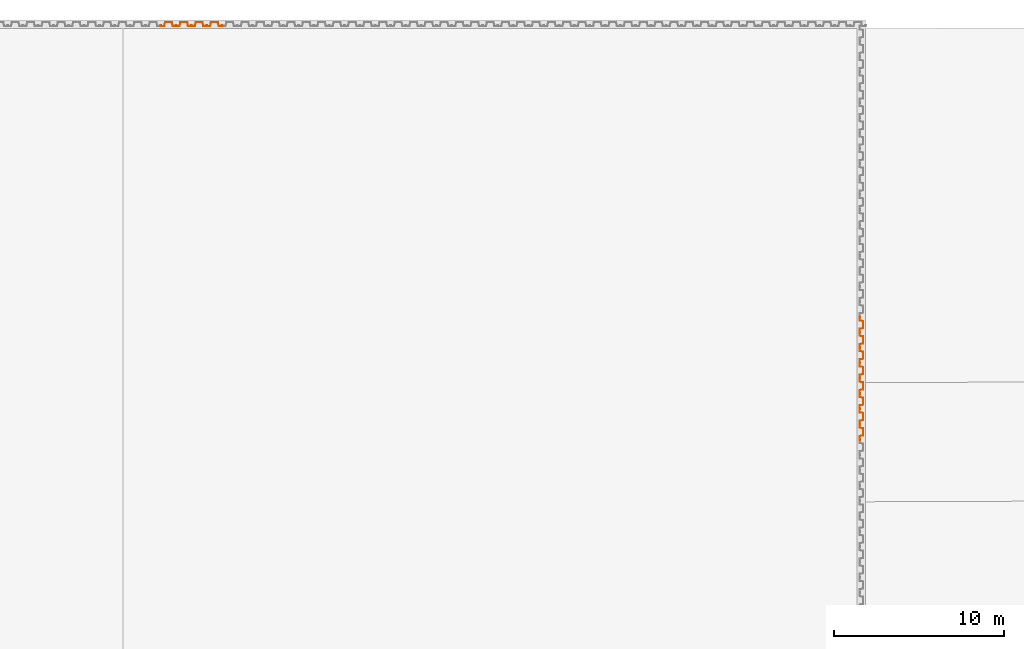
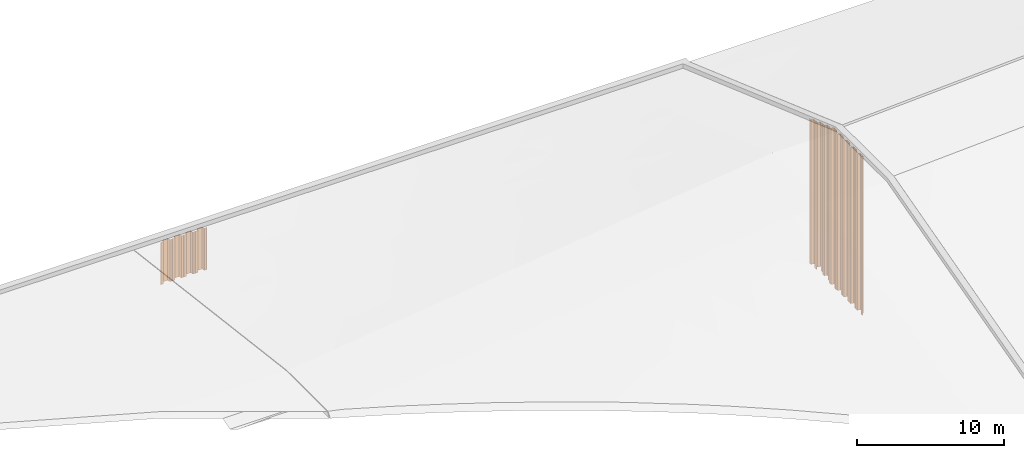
# One storey, part 27 of 32: 12 proxies.
"""IFC2X3 building model written with IfcOpenShell, lengths in millimetres."""

from ifc_helpers import new_model, entity, si_unit, converted_unit, derived_unit, direction, frame, frame_2d, origin, place, context, subcontext, project, spatial, polyline, circle_curve, parameter, trimmed, segment, composite_curve, outline, extrude, source, transform, mapped, type_object, type_shapes, element, save


model = new_model("IFC2X3")

# Units and contexts
model_context = context("Model", 3, precision=0.01, world=origin(), true_north=direction((6.12303176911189e-17, 1.0)))
body_context = subcontext(model_context, "Body", "Model", "MODEL_VIEW")
ifc_project = project(units=[si_unit("LENGTHUNIT", "METRE", prefix="MILLI"), si_unit("AREAUNIT", "SQUARE_METRE"), si_unit("VOLUMEUNIT", "CUBIC_METRE"), converted_unit("PLANEANGLEUNIT", "DEGREE", entity("IfcRatioMeasure", 0.0174532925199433), si_unit("PLANEANGLEUNIT", "RADIAN"), dimensions=[0, 0, 0, 0, 0, 0, 0]), si_unit("MASSUNIT", "GRAM", prefix="KILO"), derived_unit("MASSDENSITYUNIT", [(si_unit("MASSUNIT", "GRAM", prefix="KILO"), 1), (si_unit("LENGTHUNIT", "METRE"), -3)]), si_unit("TIMEUNIT", "SECOND"), si_unit("FREQUENCYUNIT", "HERTZ"), si_unit("THERMODYNAMICTEMPERATUREUNIT", "DEGREE_CELSIUS"), derived_unit("THERMALTRANSMITTANCEUNIT", [(si_unit("MASSUNIT", "GRAM", prefix="KILO"), 1), (si_unit("THERMODYNAMICTEMPERATUREUNIT", "KELVIN"), -1), (si_unit("TIMEUNIT", "SECOND"), -3)]), derived_unit("VOLUMETRICFLOWRATEUNIT", [(si_unit("LENGTHUNIT", "METRE"), 3), (si_unit("TIMEUNIT", "SECOND"), -1)]), si_unit("ELECTRICCURRENTUNIT", "AMPERE"), si_unit("ELECTRICVOLTAGEUNIT", "VOLT"), si_unit("POWERUNIT", "WATT"), si_unit("FORCEUNIT", "NEWTON", prefix="KILO"), si_unit("ILLUMINANCEUNIT", "LUX"), si_unit("LUMINOUSFLUXUNIT", "LUMEN"), si_unit("LUMINOUSINTENSITYUNIT", "CANDELA"), derived_unit("USERDEFINED", [(si_unit("MASSUNIT", "GRAM", prefix="KILO"), -1), (si_unit("LENGTHUNIT", "METRE"), -2), (si_unit("TIMEUNIT", "SECOND"), 3), (si_unit("LUMINOUSFLUXUNIT", "LUMEN"), 1)]), derived_unit("LINEARVELOCITYUNIT", [(si_unit("LENGTHUNIT", "METRE"), 1), (si_unit("TIMEUNIT", "SECOND"), -1)]), si_unit("PRESSUREUNIT", "PASCAL"), derived_unit("USERDEFINED", [(si_unit("LENGTHUNIT", "METRE"), -2), (si_unit("MASSUNIT", "GRAM", prefix="KILO"), 1), (si_unit("TIMEUNIT", "SECOND"), -2)])], contexts=[model_context])

# Site, building, storey
site_placement = place(None, origin())
site = spatial("IfcSite", under=ifc_project, at=site_placement, Name="Default", CompositionType="ELEMENT")
building_placement = place(site_placement, origin())
building = spatial("IfcBuilding", under=site, at=building_placement, CompositionType="ELEMENT")
storey_placement = place(building_placement, origin())
storey = spatial("IfcBuildingStorey", under=building, at=storey_placement, Name="矢板", CompositionType="ELEMENT", Elevation=0.0)

# Proxies
building_element_proxy_type_1 = type_object("IfcBuildingElementProxyType", Name="鋼矢板10H型", PredefinedType="NOTDEFINED")
shared_shape_1 = source(origin(), body_context, "Body", "SweptSolid", [
    extrude(outline(composite_curve([segment(trimmed(circle_curve(frame_2d((85.3662976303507, 306.644432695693), x_axis=(0.422618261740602, 0.906307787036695)), 13.885714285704), [parameter(24.9999999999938)], [parameter(90.0000000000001)], True, "PARAMETER"), True, "CONTINUOUS"), segment(polyline([(72.7815666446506, 312.512789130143), (9.8129512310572, 177.476157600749)]), True, "CONTINUOUS"), segment(trimmed(circle_curve(frame_2d((29.3891994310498, 168.347603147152), x_axis=(0.422618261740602, 0.906307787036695)), 21.6), [parameter(90.0000000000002)], [parameter(168.69006752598)], True, "PARAMETER"), True, "CONTINUOUS"), segment(polyline([(16.598697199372, 150.941769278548), (175.329723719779, 34.2998683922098)]), True, "CONTINUOUS"), segment(trimmed(circle_curve(frame_2d((168.93447260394, 25.596951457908), x_axis=(0.422618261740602, 0.906307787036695)), 10.7999999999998), [parameter(270.0)], [parameter(348.690067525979)], True, "PARAMETER"), False, "CONTINUOUS"), segment(polyline([(178.722596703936, 21.0326742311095), (18.2974003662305, -323.000269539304)]), True, "CONTINUOUS"), segment(trimmed(circle_curve(frame_2d((8.50927626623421, -318.435992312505), x_axis=(0.422618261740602, 0.906307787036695)), 10.8), [parameter(191.30993247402)], [parameter(269.999999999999)], True, "PARAMETER"), False, "CONTINUOUS"), segment(polyline([(5.95324328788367, -328.929166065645), (-185.429973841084, -282.310113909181)]), True, "CONTINUOUS"), segment(trimmed(circle_curve(frame_2d((-190.542039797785, -303.296461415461), x_axis=(0.422618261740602, 0.906307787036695)), 21.6000000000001), [parameter(11.3099324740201)], [parameter(90.0000000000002)], True, "PARAMETER"), True, "CONTINUOUS"), segment(polyline([(-210.118287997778, -294.167906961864), (-290.330886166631, -466.184378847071)]), True, "CONTINUOUS"), segment(trimmed(circle_curve(frame_2d((-270.754637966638, -475.312933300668), x_axis=(0.422618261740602, 0.906307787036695)), 21.6), [parameter(90.0000000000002)], [parameter(269.999999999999)], True, "PARAMETER"), True, "CONTINUOUS"), segment(polyline([(-251.178389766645, -484.441487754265), (-249.065298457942, -479.909948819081)]), True, "CONTINUOUS"), segment(polyline([(-249.065298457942, -479.909948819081), (-258.853422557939, -475.345671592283)]), True, "CONTINUOUS"), segment(polyline([(-258.853422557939, -475.345671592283), (-260.966513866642, -479.877210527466)]), True, "CONTINUOUS"), segment(trimmed(circle_curve(frame_2d((-270.754637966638, -475.312933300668), x_axis=(0.422618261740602, 0.906307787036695)), 10.8), [parameter(90.0000000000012)], [parameter(270.0)], True, "PARAMETER"), False, "CONTINUOUS"), segment(polyline([(-280.542762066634, -470.748656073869), (-200.330163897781, -298.732184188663)]), True, "CONTINUOUS"), segment(trimmed(circle_curve(frame_2d((-190.542039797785, -303.296461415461), x_axis=(0.422618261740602, 0.906307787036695)), 10.8), [parameter(11.3099324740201)], [parameter(89.9999999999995)], True, "PARAMETER"), False, "CONTINUOUS"), segment(polyline([(-187.986006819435, -292.803287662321), (3.39721030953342, -339.422339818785)]), True, "CONTINUOUS"), segment(trimmed(circle_curve(frame_2d((8.50927626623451, -318.435992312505), x_axis=(0.422618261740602, 0.906307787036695)), 21.6), [parameter(191.30993247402)], [parameter(270.0)], True, "PARAMETER"), True, "CONTINUOUS"), segment(polyline([(28.0855244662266, -327.564546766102), (188.510720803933, 16.4683970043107)]), True, "CONTINUOUS"), segment(trimmed(circle_curve(frame_2d((168.93447260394, 25.5969514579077), x_axis=(0.422618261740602, 0.906307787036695)), 21.6), [parameter(270.0)], [parameter(348.69006752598)], True, "PARAMETER"), True, "CONTINUOUS"), segment(polyline([(181.724974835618, 43.0027853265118), (22.9939483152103, 159.644686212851)]), True, "CONTINUOUS"), segment(trimmed(circle_curve(frame_2d((29.3891994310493, 168.347603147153), x_axis=(0.422618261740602, 0.906307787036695)), 10.7999999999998), [parameter(89.9999999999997)], [parameter(168.690067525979)], True, "PARAMETER"), False, "CONTINUOUS"), segment(polyline([(19.6010753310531, 172.911880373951), (82.5696907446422, 307.948511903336)]), True, "CONTINUOUS"), segment(trimmed(circle_curve(frame_2d((85.3662976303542, 306.64443269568), x_axis=(0.422618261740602, 0.906307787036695)), 3.08571428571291), [parameter(25.0000000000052)], [parameter(90.0000000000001)], True, "PARAMETER"), False, "CONTINUOUS"), segment(polyline([(85.3662976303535, 309.730146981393), (122.220231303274, 309.730146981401)]), True, "CONTINUOUS"), segment(trimmed(circle_curve(frame_2d((122.220231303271, 323.615861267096), x_axis=(0.422618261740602, 0.906307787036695)), 13.8857142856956), [parameter(205.000000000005)], [parameter(270.0)], True, "PARAMETER"), True, "CONTINUOUS"), segment(polyline([(134.804962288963, 317.747504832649), (141.079261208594, 331.202782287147)]), True, "CONTINUOUS"), segment(trimmed(circle_curve(frame_2d((121.503013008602, 340.331336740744), x_axis=(0.422618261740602, 0.906307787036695)), 21.6), [parameter(270.0)], [parameter(90.0000000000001)], True, "PARAMETER"), True, "CONTINUOUS"), segment(polyline([(101.926764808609, 349.459891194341), (99.8136734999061, 344.928352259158)]), True, "CONTINUOUS"), segment(polyline([(99.8136734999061, 344.928352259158), (109.601797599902, 340.364075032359)]), True, "CONTINUOUS"), segment(polyline([(109.601797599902, 340.364075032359), (111.714888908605, 344.895613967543)]), True, "CONTINUOUS"), segment(trimmed(circle_curve(frame_2d((121.503013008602, 340.331336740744), x_axis=(0.422618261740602, 0.906307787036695)), 10.8), [parameter(270.0)], [parameter(89.9999999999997)], True, "PARAMETER"), False, "CONTINUOUS"), segment(polyline([(131.291137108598, 335.767059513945), (125.01683818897, 322.311782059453)]), True, "CONTINUOUS"), segment(trimmed(circle_curve(frame_2d((122.220231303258, 323.615861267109), x_axis=(0.422618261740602, 0.906307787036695)), 3.08571428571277), [parameter(204.999999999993)], [parameter(270.0)], True, "PARAMETER"), False, "CONTINUOUS"), segment(polyline([(122.220231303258, 320.530146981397), (85.3662976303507, 320.530146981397)]), True, "CONTINUOUS")], self_intersect=False)), frame((95.205667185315, -48.8888888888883, -3500.0), z_axis=(0.0, 0.0, -1.0), x_axis=(0.4226182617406, 0.906307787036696, 0.0)), (0.0, 0.0, -1.0), 3500.0),
])
type_shapes(building_element_proxy_type_1, [shared_shape_1])
for number, where in (
    (1, (110497.5, 28702.0, 7600.0)),
    (2, (109597.5, 28702.0, 7600.0)),
    (3, (108697.5, 28702.0, 7600.0)),
    (4, (107797.5, 28702.0, 7600.0)),
):
    element("IfcBuildingElementProxy", number, at=place(storey_placement, frame(where)), inside=storey, type_object=building_element_proxy_type_1, Name="鋼矢板10H型:鋼矢板10H型", ObjectType="鋼矢板10H型:鋼矢板10H型", context=body_context, shape_type="MappedRepresentation", body=[
        mapped(shared_shape_1, transform((0.0, 0.0, 0.0), scale=1.0)),
    ])
building_element_proxy_type_2 = type_object("IfcBuildingElementProxyType", Name="鋼矢板10H型", PredefinedType="NOTDEFINED")
shared_shape_2 = source(origin(), body_context, "Body", "SweptSolid", [
    extrude(outline(composite_curve([segment(trimmed(circle_curve(frame_2d((85.3662976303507, 306.644432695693), x_axis=(0.422618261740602, 0.906307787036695)), 13.885714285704), [parameter(24.9999999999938)], [parameter(90.0000000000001)], True, "PARAMETER"), True, "CONTINUOUS"), segment(polyline([(72.7815666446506, 312.512789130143), (9.8129512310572, 177.476157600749)]), True, "CONTINUOUS"), segment(trimmed(circle_curve(frame_2d((29.3891994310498, 168.347603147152), x_axis=(0.422618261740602, 0.906307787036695)), 21.6), [parameter(90.0000000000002)], [parameter(168.69006752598)], True, "PARAMETER"), True, "CONTINUOUS"), segment(polyline([(16.598697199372, 150.941769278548), (175.329723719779, 34.2998683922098)]), True, "CONTINUOUS"), segment(trimmed(circle_curve(frame_2d((168.93447260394, 25.596951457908), x_axis=(0.422618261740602, 0.906307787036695)), 10.7999999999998), [parameter(270.0)], [parameter(348.690067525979)], True, "PARAMETER"), False, "CONTINUOUS"), segment(polyline([(178.722596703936, 21.0326742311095), (18.2974003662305, -323.000269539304)]), True, "CONTINUOUS"), segment(trimmed(circle_curve(frame_2d((8.50927626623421, -318.435992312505), x_axis=(0.422618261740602, 0.906307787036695)), 10.8), [parameter(191.30993247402)], [parameter(269.999999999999)], True, "PARAMETER"), False, "CONTINUOUS"), segment(polyline([(5.95324328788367, -328.929166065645), (-185.429973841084, -282.310113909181)]), True, "CONTINUOUS"), segment(trimmed(circle_curve(frame_2d((-190.542039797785, -303.296461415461), x_axis=(0.422618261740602, 0.906307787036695)), 21.6000000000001), [parameter(11.3099324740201)], [parameter(90.0000000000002)], True, "PARAMETER"), True, "CONTINUOUS"), segment(polyline([(-210.118287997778, -294.167906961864), (-290.330886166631, -466.184378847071)]), True, "CONTINUOUS"), segment(trimmed(circle_curve(frame_2d((-270.754637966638, -475.312933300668), x_axis=(0.422618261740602, 0.906307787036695)), 21.6), [parameter(90.0000000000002)], [parameter(269.999999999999)], True, "PARAMETER"), True, "CONTINUOUS"), segment(polyline([(-251.178389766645, -484.441487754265), (-249.065298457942, -479.909948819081)]), True, "CONTINUOUS"), segment(polyline([(-249.065298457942, -479.909948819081), (-258.853422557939, -475.345671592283)]), True, "CONTINUOUS"), segment(polyline([(-258.853422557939, -475.345671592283), (-260.966513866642, -479.877210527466)]), True, "CONTINUOUS"), segment(trimmed(circle_curve(frame_2d((-270.754637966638, -475.312933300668), x_axis=(0.422618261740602, 0.906307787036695)), 10.8), [parameter(90.0000000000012)], [parameter(270.0)], True, "PARAMETER"), False, "CONTINUOUS"), segment(polyline([(-280.542762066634, -470.748656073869), (-200.330163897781, -298.732184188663)]), True, "CONTINUOUS"), segment(trimmed(circle_curve(frame_2d((-190.542039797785, -303.296461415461), x_axis=(0.422618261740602, 0.906307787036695)), 10.8), [parameter(11.3099324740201)], [parameter(89.9999999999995)], True, "PARAMETER"), False, "CONTINUOUS"), segment(polyline([(-187.986006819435, -292.803287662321), (3.39721030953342, -339.422339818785)]), True, "CONTINUOUS"), segment(trimmed(circle_curve(frame_2d((8.50927626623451, -318.435992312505), x_axis=(0.422618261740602, 0.906307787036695)), 21.6), [parameter(191.30993247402)], [parameter(270.0)], True, "PARAMETER"), True, "CONTINUOUS"), segment(polyline([(28.0855244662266, -327.564546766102), (188.510720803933, 16.4683970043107)]), True, "CONTINUOUS"), segment(trimmed(circle_curve(frame_2d((168.93447260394, 25.5969514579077), x_axis=(0.422618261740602, 0.906307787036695)), 21.6), [parameter(270.0)], [parameter(348.69006752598)], True, "PARAMETER"), True, "CONTINUOUS"), segment(polyline([(181.724974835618, 43.0027853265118), (22.9939483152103, 159.644686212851)]), True, "CONTINUOUS"), segment(trimmed(circle_curve(frame_2d((29.3891994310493, 168.347603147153), x_axis=(0.422618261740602, 0.906307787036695)), 10.7999999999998), [parameter(89.9999999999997)], [parameter(168.690067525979)], True, "PARAMETER"), False, "CONTINUOUS"), segment(polyline([(19.6010753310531, 172.911880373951), (82.5696907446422, 307.948511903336)]), True, "CONTINUOUS"), segment(trimmed(circle_curve(frame_2d((85.3662976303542, 306.64443269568), x_axis=(0.422618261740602, 0.906307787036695)), 3.08571428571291), [parameter(25.0000000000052)], [parameter(90.0000000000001)], True, "PARAMETER"), False, "CONTINUOUS"), segment(polyline([(85.3662976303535, 309.730146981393), (122.220231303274, 309.730146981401)]), True, "CONTINUOUS"), segment(trimmed(circle_curve(frame_2d((122.220231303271, 323.615861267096), x_axis=(0.422618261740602, 0.906307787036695)), 13.8857142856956), [parameter(205.000000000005)], [parameter(270.0)], True, "PARAMETER"), True, "CONTINUOUS"), segment(polyline([(134.804962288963, 317.747504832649), (141.079261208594, 331.202782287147)]), True, "CONTINUOUS"), segment(trimmed(circle_curve(frame_2d((121.503013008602, 340.331336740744), x_axis=(0.422618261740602, 0.906307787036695)), 21.6), [parameter(270.0)], [parameter(90.0000000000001)], True, "PARAMETER"), True, "CONTINUOUS"), segment(polyline([(101.926764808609, 349.459891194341), (99.8136734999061, 344.928352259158)]), True, "CONTINUOUS"), segment(polyline([(99.8136734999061, 344.928352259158), (109.601797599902, 340.364075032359)]), True, "CONTINUOUS"), segment(polyline([(109.601797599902, 340.364075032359), (111.714888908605, 344.895613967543)]), True, "CONTINUOUS"), segment(trimmed(circle_curve(frame_2d((121.503013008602, 340.331336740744), x_axis=(0.422618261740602, 0.906307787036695)), 10.8), [parameter(270.0)], [parameter(89.9999999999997)], True, "PARAMETER"), False, "CONTINUOUS"), segment(polyline([(131.291137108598, 335.767059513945), (125.01683818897, 322.311782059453)]), True, "CONTINUOUS"), segment(trimmed(circle_curve(frame_2d((122.220231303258, 323.615861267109), x_axis=(0.422618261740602, 0.906307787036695)), 3.08571428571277), [parameter(204.999999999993)], [parameter(270.0)], True, "PARAMETER"), False, "CONTINUOUS"), segment(polyline([(122.220231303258, 320.530146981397), (85.3662976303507, 320.530146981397)]), True, "CONTINUOUS")], self_intersect=False)), frame((95.205667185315, -48.8888888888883, -12000.0), z_axis=(0.0, 0.0, -1.0), x_axis=(0.4226182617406, 0.906307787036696, 0.0)), (0.0, 0.0, -1.0), 12000.0),
])
type_shapes(building_element_proxy_type_2, [shared_shape_2])
for number, where, z_axis, x_axis in (
    (5, (148500.0, 11051.0, 13904.0), (0.0, 0.0, 1.0), (0.0, -1.0, 0.0)),
    (6, (148500.0, 10151.0, 14223.0), (0.0, 0.0, 1.0), (0.0, -1.0, 0.0)),
):
    element("IfcBuildingElementProxy", number, at=place(storey_placement, frame(where, z_axis=z_axis, x_axis=x_axis)), inside=storey, type_object=building_element_proxy_type_2, Name="鋼矢板10H型:鋼矢板10H型", ObjectType="鋼矢板10H型:鋼矢板10H型", context=body_context, shape_type="MappedRepresentation", body=[
        mapped(shared_shape_2, transform((0.0, 0.0, 0.0), scale=1.0)),
    ])
building_element_proxy_type_3 = type_object("IfcBuildingElementProxyType", Name="鋼矢板10H型", PredefinedType="NOTDEFINED")
shared_shape_3 = source(origin(), body_context, "Body", "SweptSolid", [
    extrude(outline(composite_curve([segment(trimmed(circle_curve(frame_2d((85.3662976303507, 306.644432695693), x_axis=(0.422618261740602, 0.906307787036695)), 13.885714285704), [parameter(24.9999999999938)], [parameter(90.0000000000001)], True, "PARAMETER"), True, "CONTINUOUS"), segment(polyline([(72.7815666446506, 312.512789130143), (9.8129512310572, 177.476157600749)]), True, "CONTINUOUS"), segment(trimmed(circle_curve(frame_2d((29.3891994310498, 168.347603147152), x_axis=(0.422618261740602, 0.906307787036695)), 21.6), [parameter(90.0000000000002)], [parameter(168.69006752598)], True, "PARAMETER"), True, "CONTINUOUS"), segment(polyline([(16.598697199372, 150.941769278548), (175.329723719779, 34.2998683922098)]), True, "CONTINUOUS"), segment(trimmed(circle_curve(frame_2d((168.93447260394, 25.596951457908), x_axis=(0.422618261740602, 0.906307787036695)), 10.7999999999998), [parameter(270.0)], [parameter(348.690067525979)], True, "PARAMETER"), False, "CONTINUOUS"), segment(polyline([(178.722596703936, 21.0326742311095), (18.2974003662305, -323.000269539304)]), True, "CONTINUOUS"), segment(trimmed(circle_curve(frame_2d((8.50927626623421, -318.435992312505), x_axis=(0.422618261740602, 0.906307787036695)), 10.8), [parameter(191.30993247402)], [parameter(269.999999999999)], True, "PARAMETER"), False, "CONTINUOUS"), segment(polyline([(5.95324328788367, -328.929166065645), (-185.429973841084, -282.310113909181)]), True, "CONTINUOUS"), segment(trimmed(circle_curve(frame_2d((-190.542039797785, -303.296461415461), x_axis=(0.422618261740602, 0.906307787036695)), 21.6000000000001), [parameter(11.3099324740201)], [parameter(90.0000000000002)], True, "PARAMETER"), True, "CONTINUOUS"), segment(polyline([(-210.118287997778, -294.167906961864), (-290.330886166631, -466.184378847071)]), True, "CONTINUOUS"), segment(trimmed(circle_curve(frame_2d((-270.754637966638, -475.312933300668), x_axis=(0.422618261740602, 0.906307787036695)), 21.6), [parameter(90.0000000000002)], [parameter(269.999999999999)], True, "PARAMETER"), True, "CONTINUOUS"), segment(polyline([(-251.178389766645, -484.441487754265), (-249.065298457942, -479.909948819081)]), True, "CONTINUOUS"), segment(polyline([(-249.065298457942, -479.909948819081), (-258.853422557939, -475.345671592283)]), True, "CONTINUOUS"), segment(polyline([(-258.853422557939, -475.345671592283), (-260.966513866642, -479.877210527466)]), True, "CONTINUOUS"), segment(trimmed(circle_curve(frame_2d((-270.754637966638, -475.312933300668), x_axis=(0.422618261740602, 0.906307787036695)), 10.8), [parameter(90.0000000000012)], [parameter(270.0)], True, "PARAMETER"), False, "CONTINUOUS"), segment(polyline([(-280.542762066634, -470.748656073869), (-200.330163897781, -298.732184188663)]), True, "CONTINUOUS"), segment(trimmed(circle_curve(frame_2d((-190.542039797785, -303.296461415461), x_axis=(0.422618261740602, 0.906307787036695)), 10.8), [parameter(11.3099324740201)], [parameter(89.9999999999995)], True, "PARAMETER"), False, "CONTINUOUS"), segment(polyline([(-187.986006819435, -292.803287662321), (3.39721030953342, -339.422339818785)]), True, "CONTINUOUS"), segment(trimmed(circle_curve(frame_2d((8.50927626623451, -318.435992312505), x_axis=(0.422618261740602, 0.906307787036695)), 21.6), [parameter(191.30993247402)], [parameter(270.0)], True, "PARAMETER"), True, "CONTINUOUS"), segment(polyline([(28.0855244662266, -327.564546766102), (188.510720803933, 16.4683970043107)]), True, "CONTINUOUS"), segment(trimmed(circle_curve(frame_2d((168.93447260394, 25.5969514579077), x_axis=(0.422618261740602, 0.906307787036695)), 21.6), [parameter(270.0)], [parameter(348.69006752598)], True, "PARAMETER"), True, "CONTINUOUS"), segment(polyline([(181.724974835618, 43.0027853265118), (22.9939483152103, 159.644686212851)]), True, "CONTINUOUS"), segment(trimmed(circle_curve(frame_2d((29.3891994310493, 168.347603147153), x_axis=(0.422618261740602, 0.906307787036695)), 10.7999999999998), [parameter(89.9999999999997)], [parameter(168.690067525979)], True, "PARAMETER"), False, "CONTINUOUS"), segment(polyline([(19.6010753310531, 172.911880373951), (82.5696907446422, 307.948511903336)]), True, "CONTINUOUS"), segment(trimmed(circle_curve(frame_2d((85.3662976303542, 306.64443269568), x_axis=(0.422618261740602, 0.906307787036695)), 3.08571428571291), [parameter(25.0000000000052)], [parameter(90.0000000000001)], True, "PARAMETER"), False, "CONTINUOUS"), segment(polyline([(85.3662976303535, 309.730146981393), (122.220231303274, 309.730146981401)]), True, "CONTINUOUS"), segment(trimmed(circle_curve(frame_2d((122.220231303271, 323.615861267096), x_axis=(0.422618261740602, 0.906307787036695)), 13.8857142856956), [parameter(205.000000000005)], [parameter(270.0)], True, "PARAMETER"), True, "CONTINUOUS"), segment(polyline([(134.804962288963, 317.747504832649), (141.079261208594, 331.202782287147)]), True, "CONTINUOUS"), segment(trimmed(circle_curve(frame_2d((121.503013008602, 340.331336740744), x_axis=(0.422618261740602, 0.906307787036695)), 21.6), [parameter(270.0)], [parameter(90.0000000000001)], True, "PARAMETER"), True, "CONTINUOUS"), segment(polyline([(101.926764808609, 349.459891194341), (99.8136734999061, 344.928352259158)]), True, "CONTINUOUS"), segment(polyline([(99.8136734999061, 344.928352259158), (109.601797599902, 340.364075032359)]), True, "CONTINUOUS"), segment(polyline([(109.601797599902, 340.364075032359), (111.714888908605, 344.895613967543)]), True, "CONTINUOUS"), segment(trimmed(circle_curve(frame_2d((121.503013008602, 340.331336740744), x_axis=(0.422618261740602, 0.906307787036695)), 10.8), [parameter(270.0)], [parameter(89.9999999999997)], True, "PARAMETER"), False, "CONTINUOUS"), segment(polyline([(131.291137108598, 335.767059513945), (125.01683818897, 322.311782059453)]), True, "CONTINUOUS"), segment(trimmed(circle_curve(frame_2d((122.220231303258, 323.615861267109), x_axis=(0.422618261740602, 0.906307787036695)), 3.08571428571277), [parameter(204.999999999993)], [parameter(270.0)], True, "PARAMETER"), False, "CONTINUOUS"), segment(polyline([(122.220231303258, 320.530146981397), (85.3662976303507, 320.530146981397)]), True, "CONTINUOUS")], self_intersect=False)), frame((95.205667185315, -48.8888888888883, -12500.0), z_axis=(0.0, 0.0, -1.0), x_axis=(0.4226182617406, 0.906307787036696, 0.0)), (0.0, 0.0, -1.0), 12500.0),
])
type_shapes(building_element_proxy_type_3, [shared_shape_3])
proxy_placement = place(storey_placement, frame((148500.0, 9251.0, 14541.0), z_axis=(0.0, 0.0, 1.0), x_axis=(0.0, -1.0, 0.0)))
element("IfcBuildingElementProxy", 7, at=proxy_placement, inside=storey, type_object=building_element_proxy_type_3, Name="鋼矢板10H型:鋼矢板10H型", ObjectType="鋼矢板10H型:鋼矢板10H型", context=body_context, shape_type="MappedRepresentation", body=[
    mapped(shared_shape_3, transform((0.0, 0.0, 0.0), scale=1.0)),
])
building_element_proxy_type_4 = type_object("IfcBuildingElementProxyType", Name="鋼矢板10H型", PredefinedType="NOTDEFINED")
shared_shape_4 = source(origin(), body_context, "Body", "SweptSolid", [
    extrude(outline(composite_curve([segment(trimmed(circle_curve(frame_2d((85.3662976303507, 306.644432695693), x_axis=(0.422618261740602, 0.906307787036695)), 13.885714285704), [parameter(24.9999999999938)], [parameter(90.0000000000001)], True, "PARAMETER"), True, "CONTINUOUS"), segment(polyline([(72.7815666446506, 312.512789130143), (9.8129512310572, 177.476157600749)]), True, "CONTINUOUS"), segment(trimmed(circle_curve(frame_2d((29.3891994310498, 168.347603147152), x_axis=(0.422618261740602, 0.906307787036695)), 21.6), [parameter(90.0000000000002)], [parameter(168.69006752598)], True, "PARAMETER"), True, "CONTINUOUS"), segment(polyline([(16.598697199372, 150.941769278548), (175.329723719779, 34.2998683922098)]), True, "CONTINUOUS"), segment(trimmed(circle_curve(frame_2d((168.93447260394, 25.596951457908), x_axis=(0.422618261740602, 0.906307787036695)), 10.7999999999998), [parameter(270.0)], [parameter(348.690067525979)], True, "PARAMETER"), False, "CONTINUOUS"), segment(polyline([(178.722596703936, 21.0326742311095), (18.2974003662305, -323.000269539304)]), True, "CONTINUOUS"), segment(trimmed(circle_curve(frame_2d((8.50927626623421, -318.435992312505), x_axis=(0.422618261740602, 0.906307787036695)), 10.8), [parameter(191.30993247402)], [parameter(269.999999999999)], True, "PARAMETER"), False, "CONTINUOUS"), segment(polyline([(5.95324328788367, -328.929166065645), (-185.429973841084, -282.310113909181)]), True, "CONTINUOUS"), segment(trimmed(circle_curve(frame_2d((-190.542039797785, -303.296461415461), x_axis=(0.422618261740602, 0.906307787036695)), 21.6000000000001), [parameter(11.3099324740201)], [parameter(90.0000000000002)], True, "PARAMETER"), True, "CONTINUOUS"), segment(polyline([(-210.118287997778, -294.167906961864), (-290.330886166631, -466.184378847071)]), True, "CONTINUOUS"), segment(trimmed(circle_curve(frame_2d((-270.754637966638, -475.312933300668), x_axis=(0.422618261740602, 0.906307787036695)), 21.6), [parameter(90.0000000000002)], [parameter(269.999999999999)], True, "PARAMETER"), True, "CONTINUOUS"), segment(polyline([(-251.178389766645, -484.441487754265), (-249.065298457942, -479.909948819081)]), True, "CONTINUOUS"), segment(polyline([(-249.065298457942, -479.909948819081), (-258.853422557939, -475.345671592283)]), True, "CONTINUOUS"), segment(polyline([(-258.853422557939, -475.345671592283), (-260.966513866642, -479.877210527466)]), True, "CONTINUOUS"), segment(trimmed(circle_curve(frame_2d((-270.754637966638, -475.312933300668), x_axis=(0.422618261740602, 0.906307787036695)), 10.8), [parameter(90.0000000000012)], [parameter(270.0)], True, "PARAMETER"), False, "CONTINUOUS"), segment(polyline([(-280.542762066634, -470.748656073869), (-200.330163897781, -298.732184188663)]), True, "CONTINUOUS"), segment(trimmed(circle_curve(frame_2d((-190.542039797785, -303.296461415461), x_axis=(0.422618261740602, 0.906307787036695)), 10.8), [parameter(11.3099324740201)], [parameter(89.9999999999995)], True, "PARAMETER"), False, "CONTINUOUS"), segment(polyline([(-187.986006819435, -292.803287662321), (3.39721030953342, -339.422339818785)]), True, "CONTINUOUS"), segment(trimmed(circle_curve(frame_2d((8.50927626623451, -318.435992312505), x_axis=(0.422618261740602, 0.906307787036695)), 21.6), [parameter(191.30993247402)], [parameter(270.0)], True, "PARAMETER"), True, "CONTINUOUS"), segment(polyline([(28.0855244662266, -327.564546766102), (188.510720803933, 16.4683970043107)]), True, "CONTINUOUS"), segment(trimmed(circle_curve(frame_2d((168.93447260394, 25.5969514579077), x_axis=(0.422618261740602, 0.906307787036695)), 21.6), [parameter(270.0)], [parameter(348.69006752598)], True, "PARAMETER"), True, "CONTINUOUS"), segment(polyline([(181.724974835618, 43.0027853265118), (22.9939483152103, 159.644686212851)]), True, "CONTINUOUS"), segment(trimmed(circle_curve(frame_2d((29.3891994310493, 168.347603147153), x_axis=(0.422618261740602, 0.906307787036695)), 10.7999999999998), [parameter(89.9999999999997)], [parameter(168.690067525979)], True, "PARAMETER"), False, "CONTINUOUS"), segment(polyline([(19.6010753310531, 172.911880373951), (82.5696907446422, 307.948511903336)]), True, "CONTINUOUS"), segment(trimmed(circle_curve(frame_2d((85.3662976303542, 306.64443269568), x_axis=(0.422618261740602, 0.906307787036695)), 3.08571428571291), [parameter(25.0000000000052)], [parameter(90.0000000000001)], True, "PARAMETER"), False, "CONTINUOUS"), segment(polyline([(85.3662976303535, 309.730146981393), (122.220231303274, 309.730146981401)]), True, "CONTINUOUS"), segment(trimmed(circle_curve(frame_2d((122.220231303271, 323.615861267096), x_axis=(0.422618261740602, 0.906307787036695)), 13.8857142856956), [parameter(205.000000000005)], [parameter(270.0)], True, "PARAMETER"), True, "CONTINUOUS"), segment(polyline([(134.804962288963, 317.747504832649), (141.079261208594, 331.202782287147)]), True, "CONTINUOUS"), segment(trimmed(circle_curve(frame_2d((121.503013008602, 340.331336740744), x_axis=(0.422618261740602, 0.906307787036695)), 21.6), [parameter(270.0)], [parameter(90.0000000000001)], True, "PARAMETER"), True, "CONTINUOUS"), segment(polyline([(101.926764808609, 349.459891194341), (99.8136734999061, 344.928352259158)]), True, "CONTINUOUS"), segment(polyline([(99.8136734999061, 344.928352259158), (109.601797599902, 340.364075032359)]), True, "CONTINUOUS"), segment(polyline([(109.601797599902, 340.364075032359), (111.714888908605, 344.895613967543)]), True, "CONTINUOUS"), segment(trimmed(circle_curve(frame_2d((121.503013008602, 340.331336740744), x_axis=(0.422618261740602, 0.906307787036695)), 10.8), [parameter(270.0)], [parameter(89.9999999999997)], True, "PARAMETER"), False, "CONTINUOUS"), segment(polyline([(131.291137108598, 335.767059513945), (125.01683818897, 322.311782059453)]), True, "CONTINUOUS"), segment(trimmed(circle_curve(frame_2d((122.220231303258, 323.615861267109), x_axis=(0.422618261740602, 0.906307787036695)), 3.08571428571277), [parameter(204.999999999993)], [parameter(270.0)], True, "PARAMETER"), False, "CONTINUOUS"), segment(polyline([(122.220231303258, 320.530146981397), (85.3662976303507, 320.530146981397)]), True, "CONTINUOUS")], self_intersect=False)), frame((95.205667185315, -48.8888888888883, -13000.0), z_axis=(0.0, 0.0, -1.0), x_axis=(0.4226182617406, 0.906307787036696, 0.0)), (0.0, 0.0, -1.0), 13000.0),
])
type_shapes(building_element_proxy_type_4, [shared_shape_4])
for number, where, z_axis, x_axis in (
    (8, (148500.0, 8351.0, 14860.0), (0.0, 0.0, 1.0), (0.0, -1.0, 0.0)),
    (9, (148500.0, 7451.0, 14913.0), (0.0, 0.0, 1.0), (0.0, -1.0, 0.0)),
    (10, (148500.0, 6551.0, 14913.0), (0.0, 0.0, 1.0), (0.0, -1.0, 0.0)),
    (11, (148500.0, 5651.0, 14913.0), (0.0, 0.0, 1.0), (0.0, -1.0, 0.0)),
    (12, (148500.0, 4751.0, 14913.0), (0.0, 0.0, 1.0), (0.0, -1.0, 0.0)),
):
    element("IfcBuildingElementProxy", number, at=place(storey_placement, frame(where, z_axis=z_axis, x_axis=x_axis)), inside=storey, type_object=building_element_proxy_type_4, Name="鋼矢板10H型:鋼矢板10H型", ObjectType="鋼矢板10H型:鋼矢板10H型", context=body_context, shape_type="MappedRepresentation", body=[
        mapped(shared_shape_4, transform((0.0, 0.0, 0.0), scale=1.0)),
    ])

save(model, "model.ifc")
